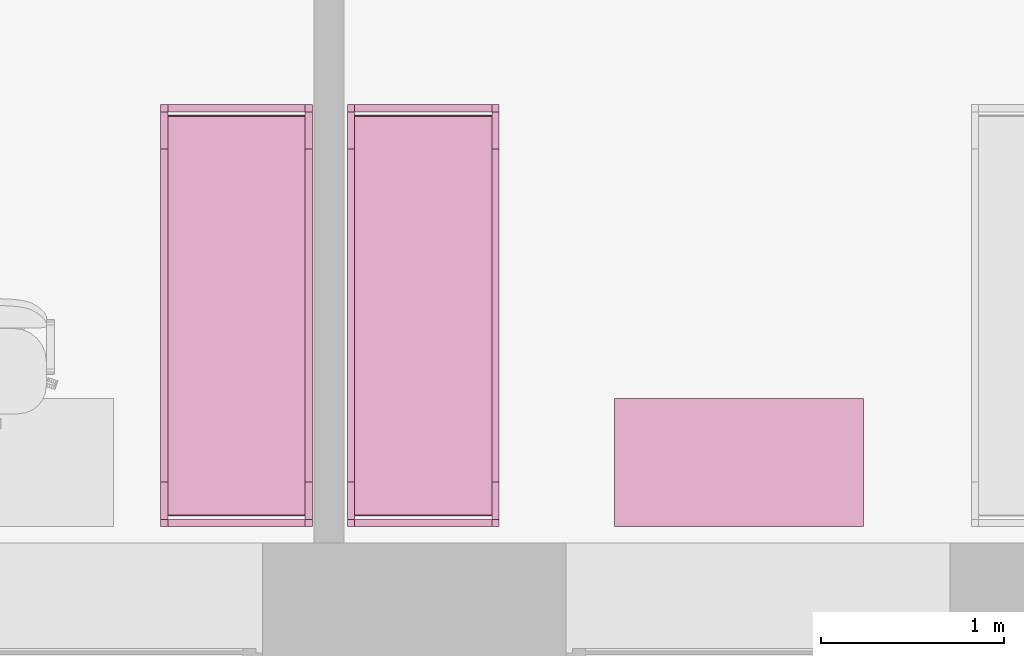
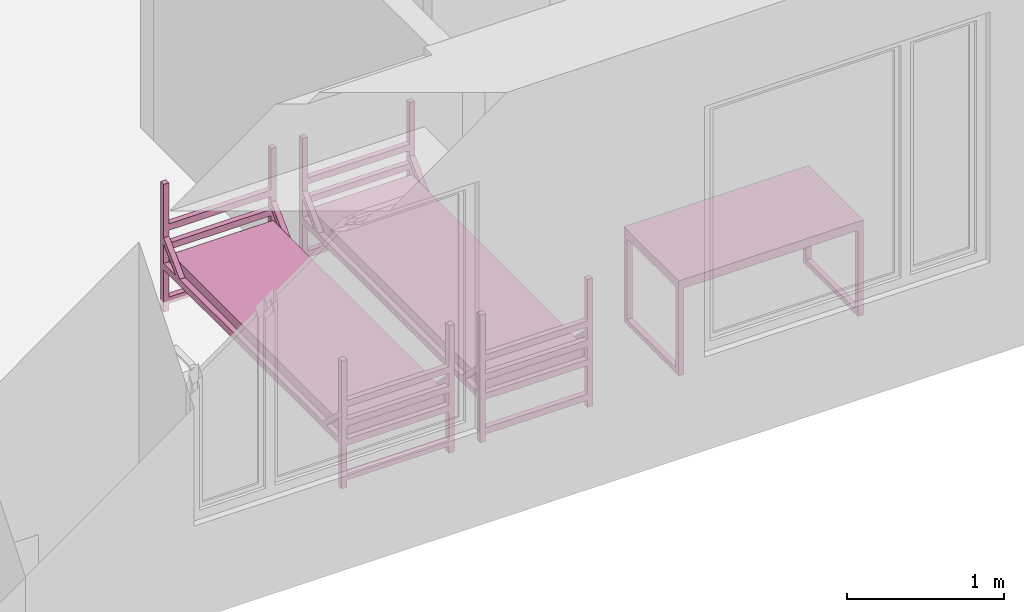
# One storey, part 27 of 46: 3 furnishings.
"""IFC2X3 building model written with IfcOpenShell, lengths in millimetres."""

from ifc_helpers import new_model, entity, si_unit, converted_unit, derived_unit, direction, frame, frame_2d, origin, origin_2d_with_axis, place, context, subcontext, project, spatial, polyline, circle_curve, parameter, trimmed, segment, composite_curve, rectangle, outline, extrude, faceted_brep, source, transform, mapped, material, material_list, type_object, type_shapes, element, save


model = new_model("IFC2X3")

# Units and contexts
model_context = context("Model", 3, precision=0.01, world=origin(), true_north=direction((6.12303176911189e-17, 1.0)))
body_context = subcontext(model_context, "Body", "Model", "MODEL_VIEW")
ifc_project = project(units=[si_unit("LENGTHUNIT", "METRE", prefix="MILLI"), si_unit("AREAUNIT", "SQUARE_METRE"), si_unit("VOLUMEUNIT", "CUBIC_METRE"), converted_unit("PLANEANGLEUNIT", "DEGREE", entity("IfcRatioMeasure", 0.0174532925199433), si_unit("PLANEANGLEUNIT", "RADIAN"), dimensions=[0, 0, 0, 0, 0, 0, 0]), si_unit("MASSUNIT", "GRAM", prefix="KILO"), derived_unit("MASSDENSITYUNIT", [(si_unit("MASSUNIT", "GRAM", prefix="KILO"), 1), (si_unit("LENGTHUNIT", "METRE"), -3)]), si_unit("TIMEUNIT", "SECOND"), si_unit("FREQUENCYUNIT", "HERTZ"), si_unit("THERMODYNAMICTEMPERATUREUNIT", "DEGREE_CELSIUS"), derived_unit("THERMALTRANSMITTANCEUNIT", [(si_unit("MASSUNIT", "GRAM", prefix="KILO"), 1), (si_unit("THERMODYNAMICTEMPERATUREUNIT", "KELVIN"), -1), (si_unit("TIMEUNIT", "SECOND"), -3)]), derived_unit("VOLUMETRICFLOWRATEUNIT", [(si_unit("LENGTHUNIT", "METRE"), 3), (si_unit("TIMEUNIT", "SECOND"), -1)]), si_unit("ELECTRICCURRENTUNIT", "AMPERE"), si_unit("ELECTRICVOLTAGEUNIT", "VOLT"), si_unit("POWERUNIT", "WATT"), si_unit("FORCEUNIT", "NEWTON", prefix="KILO"), si_unit("ILLUMINANCEUNIT", "LUX"), si_unit("LUMINOUSFLUXUNIT", "LUMEN"), si_unit("LUMINOUSINTENSITYUNIT", "CANDELA"), derived_unit("USERDEFINED", [(si_unit("MASSUNIT", "GRAM", prefix="KILO"), -1), (si_unit("LENGTHUNIT", "METRE"), -2), (si_unit("TIMEUNIT", "SECOND"), 3), (si_unit("LUMINOUSFLUXUNIT", "LUMEN"), 1)]), derived_unit("LINEARVELOCITYUNIT", [(si_unit("LENGTHUNIT", "METRE"), 1), (si_unit("TIMEUNIT", "SECOND"), -1)]), si_unit("PRESSUREUNIT", "PASCAL"), derived_unit("USERDEFINED", [(si_unit("LENGTHUNIT", "METRE"), -2), (si_unit("MASSUNIT", "GRAM", prefix="KILO"), 1), (si_unit("TIMEUNIT", "SECOND"), -2)]), derived_unit("LINEARFORCEUNIT", [(si_unit("MASSUNIT", "GRAM", prefix="KILO"), 1), (si_unit("LENGTHUNIT", "METRE"), 1), (si_unit("TIMEUNIT", "SECOND"), -2), (si_unit("LENGTHUNIT", "METRE"), -1)]), derived_unit("PLANARFORCEUNIT", [(si_unit("MASSUNIT", "GRAM", prefix="KILO"), 1), (si_unit("LENGTHUNIT", "METRE"), 1), (si_unit("TIMEUNIT", "SECOND"), -2), (si_unit("LENGTHUNIT", "METRE"), -2)])], contexts=[model_context])

# Site, building, storey, space
site_placement = place(None, origin())
site = spatial("IfcSite", under=ifc_project, at=site_placement, Name="Default", CompositionType="ELEMENT")
building_placement = place(site_placement, origin())
building = spatial("IfcBuilding", under=site, at=building_placement, Name="SMA ARH", CompositionType="ELEMENT")
storey_placement = place(building_placement, origin())
storey = spatial("IfcBuildingStorey", under=building, at=storey_placement, Name="1 Korrus", CompositionType="ELEMENT", Elevation=0.0)
space_1_placement = place(storey_placement, origin())
space_1 = spatial("IfcSpace", under=storey, at=space_1_placement, Name="1-15", CompositionType="ELEMENT", InteriorOrExteriorSpace="INTERNAL")

# Furnishing
ifc_material_1 = material(Name="Madrats")
furniture_type_1 = type_object("IfcFurnitureType", Name="Kasarmu voodi ühekordne 2308x830:Kasarmu voodi ühekordne 2308x830", material=ifc_material_1)
shared_shape_1 = source(origin(), body_context, "Body", "SweptSolid", [
    extrude(rectangle(XDim=39.9999999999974, YDim=750.000000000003, at=frame_2d((-1.35003119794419e-13, -2.8421709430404e-14), x_axis=(1.0, 0.0))), frame((1.68638457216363, -1226.7969571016, 55.0), z_axis=(0.0, 0.0, 1.0), x_axis=(0.0, -1.0, 0.0)), (0.0, 0.0, 1.0), 49.9999999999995),
    extrude(rectangle(XDim=39.9999999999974, YDim=750.000000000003, at=frame_2d((-1.35003119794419e-13, -2.8421709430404e-14), x_axis=(1.0, 0.0))), frame((1.68638457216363, -1226.7969571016, 325.0), z_axis=(0.0, 0.0, 1.0), x_axis=(0.0, -1.0, 0.0)), (0.0, 0.0, 1.0), 49.9999999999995),
    extrude(rectangle(XDim=39.9999999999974, YDim=750.000000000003, at=frame_2d((-1.35003119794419e-13, -2.8421709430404e-14), x_axis=(1.0, 0.0))), frame((1.68638457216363, -1226.7969571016, 475.0), z_axis=(0.0, 0.0, 1.0), x_axis=(0.0, -1.0, 0.0)), (0.0, 0.0, 1.0), 49.9999999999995),
    extrude(rectangle(XDim=39.9999999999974, YDim=750.000000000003, at=frame_2d((-1.35003119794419e-13, -2.8421709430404e-14), x_axis=(1.0, 0.0))), frame((1.68638457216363, -1226.7969571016, 625.0), z_axis=(0.0, 0.0, 1.0), x_axis=(0.0, -1.0, 0.0)), (0.0, 0.0, 1.0), 50.0000000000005),
    extrude(rectangle(XDim=39.9999999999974, YDim=750.000000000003, at=frame_2d((1.35003119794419e-13, -2.8421709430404e-14), x_axis=(1.0, 0.0))), frame((1.68638457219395, 1041.2030428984, 55.0), z_axis=(0.0, 0.0, 1.0), x_axis=(0.0, -1.0, 0.0)), (0.0, 0.0, 1.0), 50.0000000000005),
    extrude(rectangle(XDim=39.9999999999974, YDim=750.000000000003, at=frame_2d((1.35003119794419e-13, -2.8421709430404e-14), x_axis=(1.0, 0.0))), frame((1.68638457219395, 1041.2030428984, 325.0), z_axis=(0.0, 0.0, 1.0), x_axis=(0.0, -1.0, 0.0)), (0.0, 0.0, 1.0), 50.0000000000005),
    extrude(rectangle(XDim=39.9999999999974, YDim=750.000000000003, at=frame_2d((1.35003119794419e-13, -2.8421709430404e-14), x_axis=(1.0, 0.0))), frame((1.68638457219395, 1041.2030428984, 475.0), z_axis=(0.0, 0.0, 1.0), x_axis=(0.0, -1.0, 0.0)), (0.0, 0.0, 1.0), 50.0000000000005),
    extrude(rectangle(XDim=39.9999999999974, YDim=750.000000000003, at=frame_2d((1.35003119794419e-13, -2.8421709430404e-14), x_axis=(1.0, 0.0))), frame((1.68638457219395, 1041.2030428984, 625.0), z_axis=(0.0, 0.0, 1.0), x_axis=(0.0, -1.0, 0.0)), (0.0, 0.0, 1.0), 49.9999999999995),
    extrude(outline(composite_curve([segment(trimmed(circle_curve(frame_2d((1085.0, -40.0), x_axis=(1.0, 0.0)), 10.0), [parameter(270.0)], [parameter(0.0)], True, "PARAMETER"), True, "CONTINUOUS"), segment(polyline([(1095.0, -40.0), (1095.0, 40.0)]), True, "CONTINUOUS"), segment(trimmed(circle_curve(frame_2d((1085.0, 40.0), x_axis=(1.0, 0.0)), 10.0), [parameter(0.0)], [parameter(90.0000000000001)], True, "PARAMETER"), True, "CONTINUOUS"), segment(polyline([(1085.0, 50.0), (-1085.0, 50.0)]), True, "CONTINUOUS"), segment(trimmed(circle_curve(frame_2d((-1085.0, 40.0), x_axis=(1.0, 0.0)), 10.0), [parameter(90.0000000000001)], [parameter(180.0)], True, "PARAMETER"), True, "CONTINUOUS"), segment(polyline([(-1095.0, 40.0), (-1095.0, -40.0)]), True, "CONTINUOUS"), segment(trimmed(circle_curve(frame_2d((-1085.0, -40.0), x_axis=(1.0, 0.0)), 10.0), [parameter(180.0)], [parameter(270.0)], True, "PARAMETER"), True, "CONTINUOUS"), segment(polyline([(-1085.0, -50.0), (1085.0, -50.0)]), True, "CONTINUOUS")], self_intersect=False)), frame((-373.313615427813, -92.7969571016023, 405.0), z_axis=(1.0, 0.0, 0.0), x_axis=(0.0, -1.0, 0.0)), (0.0, 0.0, 1.0), 750.000000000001),
    extrude(outline(polyline([(-1114.0, -100.0), (1114.0, -100.0), (1114.0, -50.0), (961.59199141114, -50.0), (1114.0, 100.0), (1114.0, 150.0), (910.789321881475, -50.0), (-910.789321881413, -50.0), (-1114.0, 150.0), (-1114.0, 100.0), (-961.591991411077, -50.0), (-1114.0, -50.0), (-1114.0, -100.0)])), frame((-413.313615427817, -92.7969571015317, 430.0), z_axis=(1.0, 0.0, 0.0), x_axis=(0.0, 1.0, 0.0)), (0.0, 0.0, 1.0), 39.9999999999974),
    extrude(outline(polyline([(-1114.0, -100.0), (1114.0, -100.0), (1114.0, -50.0), (961.591991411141, -50.0), (1114.0, 100.0), (1114.0, 150.0), (910.789321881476, -50.0), (-910.789321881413, -50.0), (-1114.0, 150.0), (-1114.0, 100.0), (-961.591991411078, -50.0), (-1114.0, -50.0), (-1114.0, -100.0)])), frame((376.686384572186, -92.796957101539, 430.0), z_axis=(1.0, 0.0, 0.0), x_axis=(0.0, 1.0, 0.0)), (0.0, 0.0, 1.0), 39.9999999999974),
    extrude(rectangle(XDim=39.9999999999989, YDim=39.9999999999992, at=frame_2d((-6.75015598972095e-14, 0.0), x_axis=(1.0, 0.0))), frame((396.686384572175, -1226.79695710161, 0.0), z_axis=(0.0, 0.0, 1.0), x_axis=(0.0, 1.0, 0.0)), (0.0, 0.0, 1.0), 995.0),
    extrude(rectangle(XDim=39.9999999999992, YDim=39.9999999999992, at=frame_2d((-1.35003119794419e-13, 0.0), x_axis=(1.0, 0.0))), frame((396.686384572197, 1041.20304289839, 0.0), z_axis=(0.0, 0.0, 1.0), x_axis=(0.0, 1.0, 0.0)), (0.0, 0.0, 1.0), 995.0),
    extrude(rectangle(XDim=40.0000000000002, YDim=39.9999999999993, at=frame_2d((-1.35003119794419e-13, 0.0), x_axis=(1.0, 0.0))), frame((-393.313615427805, 1041.2030428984, 0.0), z_axis=(0.0, 0.0, 1.0), x_axis=(0.0, 1.0, 0.0)), (0.0, 0.0, 1.0), 995.0),
    extrude(rectangle(XDim=39.9999999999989, YDim=39.9999999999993, at=frame_2d((-6.75015598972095e-14, 0.0), x_axis=(1.0, 0.0))), frame((-393.313615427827, -1226.7969571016, 0.0), z_axis=(0.0, 0.0, 1.0), x_axis=(0.0, 1.0, 0.0)), (0.0, 0.0, 1.0), 995.0),
])
type_shapes(furniture_type_1, [shared_shape_1])
furnishing_1_placement = place(space_1_placement, frame((3200.0, 1151.20304289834, 0.0), z_axis=(0.0, 0.0, 1.0), x_axis=(-1.0, 0.0, 0.0)))
element("IfcFurnishingElement", 1, at=furnishing_1_placement, inside=space_1, type_object=furniture_type_1, material=ifc_material_1, Name="Kasarmu voodi ühekordne 2308x830:Kasarmu voodi ühekordne 2308x830", ObjectType="Kasarmu voodi ühekordne 2308x830:Kasarmu voodi ühekordne 2308x830", context=body_context, shape_type="MappedRepresentation", body=[
    mapped(shared_shape_1, transform((0.0, 0.0, 0.0), scale=1.0)),
])

# Space
space_2_placement = place(storey_placement, origin())
space_2 = spatial("IfcSpace", under=storey, at=space_2_placement, Name="1-14", CompositionType="ELEMENT", InteriorOrExteriorSpace="INTERNAL")

# Furnishings
ifc_material_2 = material(Name="<Unnamed>")
ifc_material_list = material_list([ifc_material_2, ifc_material_2])
furniture_type_2 = type_object("IfcFurnitureType", Name="kirjutuslaud 1360x700mm:kirjutuslaud 1360x700mm", material=ifc_material_list)
shared_shape_2 = source(origin(), body_context, "Body", "Brep", [
    faceted_brep([(680.0, -350.0, 720.0), (680.0, 350.0, 720.0), (680.0, 350.0, 750.0), (680.0, -350.0, 750.0), (-680.0, -350.0, 720.0), (-680.0, -350.0, 750.0), (-680.0, 350.0, 750.0), (-680.0, 350.0, 720.0)], [[[0, 1, 2, 3]], [[4, 5, 6, 7]], [[1, 0, 4, 7]], [[2, 1, 7, 6]], [[3, 2, 6, 5]], [[0, 3, 5, 4]]]),
    faceted_brep([(-640.0, -310.0, 680.0), (-640.0, 310.0, 680.0), (-640.0, 310.0, 720.0), (-640.0, -310.0, 720.0), (-680.0, -350.0, 720.0), (-680.0, 350.0, 720.0), (-680.0, 350.0, 10.0), (-680.0, -350.0, 10.0), (-680.0, 310.0, 680.0), (-680.0, -310.0, 680.0), (-680.0, -310.0, 50.0), (-680.0, 310.0, 50.0), (-640.0, -350.0, 10.0), (-640.0, -350.0, 680.0), (640.0, -350.0, 680.0), (640.0, -350.0, 10.0), (680.0, -350.0, 10.0), (680.0, -350.0, 720.0), (-640.0, 350.0, 10.0), (680.0, 350.0, 720.0), (680.0, 350.0, 10.0), (640.0, 350.0, 10.0), (640.0, 350.0, 680.0), (-640.0, 350.0, 680.0), (640.0, 310.0, 720.0), (640.0, -310.0, 720.0), (-640.0, 310.0, 50.0), (-640.0, -310.0, 50.0), (640.0, -310.0, 680.0), (640.0, 310.0, 680.0), (680.0, 310.0, 680.0), (680.0, 310.0, 50.0), (680.0, -310.0, 50.0), (680.0, -310.0, 680.0), (640.0, -310.0, 50.0), (640.0, 310.0, 50.0)], [[[0, 1, 2, 3]], [[4, 5, 6, 7], [8, 9, 10, 11]], [[4, 7, 12, 13, 14, 15, 16, 17]], [[18, 12, 7, 6]], [[6, 5, 19, 20, 21, 22, 23, 18]], [[19, 5, 4, 17], [2, 24, 25, 3]], [[26, 1, 8, 11]], [[27, 26, 11, 10]], [[0, 27, 10, 9]], [[1, 0, 9, 8]], [[14, 13, 0, 28]], [[24, 2, 1, 29]], [[3, 25, 28, 0]], [[17, 16, 20, 19], [30, 31, 32, 33]], [[21, 15, 14, 28, 34, 35, 29, 22]], [[20, 16, 15, 21]], [[31, 30, 29, 35]], [[32, 31, 35, 34]], [[33, 32, 34, 28]], [[30, 33, 28, 29]], [[29, 28, 25, 24]], [[29, 1, 23, 22]], [[12, 18, 23, 1, 26, 27, 0, 13]]]),
    faceted_brep([(-663.729456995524, -270.466136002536, 0.0), (-659.847171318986, -269.955023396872, 0.0), (-655.964885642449, -270.466136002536, 0.0), (-652.347171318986, -271.964642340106, 0.0), (-649.240569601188, -274.348421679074, 0.0), (-646.85679026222, -277.455023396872, 0.0), (-645.35828392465, -281.072737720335, 0.0), (-644.847171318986, -284.955023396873, 0.0), (-645.35828392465, -288.83730907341, 0.0), (-646.85679026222, -292.455023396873, 0.0), (-649.240569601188, -295.561625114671, 0.0), (-652.347171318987, -297.945404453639, 0.0), (-655.964885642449, -299.443910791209, 0.0), (-659.847171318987, -299.955023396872, 0.0), (-663.729456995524, -299.443910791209, 0.0), (-667.347171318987, -297.945404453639, 0.0), (-670.453773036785, -295.561625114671, 0.0), (-672.837552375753, -292.455023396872, 0.0), (-674.336058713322, -288.83730907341, 0.0), (-674.847171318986, -284.955023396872, 0.0), (-674.336058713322, -281.072737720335, 0.0), (-672.837552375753, -277.455023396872, 0.0), (-670.453773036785, -274.348421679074, 0.0), (-667.347171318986, -271.964642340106, 0.0), (-655.964885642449, -299.443910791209, 10.0), (-652.347171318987, -297.945404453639, 10.0), (-649.240569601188, -295.561625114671, 10.0), (-646.85679026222, -292.455023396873, 10.0), (-645.35828392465, -288.83730907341, 10.0), (-644.847171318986, -284.955023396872, 10.0), (-645.35828392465, -281.072737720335, 10.0), (-646.85679026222, -277.455023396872, 10.0), (-649.240569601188, -274.348421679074, 10.0), (-652.347171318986, -271.964642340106, 10.0), (-655.964885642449, -270.466136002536, 10.0), (-659.847171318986, -269.955023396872, 10.0), (-663.729456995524, -270.466136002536, 10.0), (-667.347171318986, -271.964642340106, 10.0), (-670.453773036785, -274.348421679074, 10.0), (-672.837552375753, -277.455023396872, 10.0), (-674.336058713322, -281.072737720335, 10.0), (-674.847171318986, -284.955023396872, 10.0), (-674.336058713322, -288.83730907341, 10.0), (-672.837552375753, -292.455023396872, 10.0), (-670.453773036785, -295.561625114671, 10.0), (-667.347171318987, -297.945404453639, 10.0), (-663.729456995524, -299.443910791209, 10.0), (-659.847171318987, -299.955023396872, 10.0)], [[[0, 1, 2, 3, 4, 5, 6, 7, 8, 9, 10, 11, 12, 13, 14, 15, 16, 17, 18, 19, 20, 21, 22, 23]], [[24, 25, 26, 27, 28, 29, 30, 31, 32, 33, 34, 35, 36, 37, 38, 39, 40, 41, 42, 43, 44, 45, 46, 47]], [[18, 42, 41, 19]], [[17, 43, 42, 18]], [[45, 44, 16, 15]], [[17, 16, 44, 43]], [[46, 45, 15, 14]], [[47, 46, 14, 13]], [[12, 24, 47, 13]], [[11, 25, 24, 12]], [[27, 26, 10, 9]], [[11, 10, 26, 25]], [[28, 27, 9, 8]], [[29, 28, 8, 7]], [[6, 30, 29, 7]], [[5, 31, 30, 6]], [[33, 32, 4, 3]], [[5, 4, 32, 31]], [[34, 33, 3, 2]], [[35, 34, 2, 1]], [[0, 36, 35, 1]], [[23, 37, 36, 0]], [[39, 38, 22, 21]], [[23, 22, 38, 37]], [[40, 39, 21, 20]], [[41, 40, 20, 19]]]),
    faceted_brep([(-655.964885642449, 270.466136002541, 10.0), (-652.347171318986, 271.964642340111, 10.0), (-649.240569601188, 274.348421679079, 10.0), (-646.85679026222, 277.455023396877, 10.0), (-645.35828392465, 281.07273772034, 10.0), (-644.847171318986, 284.955023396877, 10.0), (-645.35828392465, 288.837309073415, 10.0), (-646.85679026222, 292.455023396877, 10.0), (-649.240569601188, 295.561625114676, 10.0), (-652.347171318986, 297.945404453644, 10.0), (-655.964885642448, 299.443910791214, 10.0), (-659.847171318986, 299.955023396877, 10.0), (-663.729456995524, 299.443910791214, 10.0), (-667.347171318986, 297.945404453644, 10.0), (-670.453773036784, 295.561625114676, 10.0), (-672.837552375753, 292.455023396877, 10.0), (-674.336058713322, 288.837309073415, 10.0), (-674.847171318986, 284.955023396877, 10.0), (-674.336058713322, 281.07273772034, 10.0), (-672.837552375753, 277.455023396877, 10.0), (-670.453773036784, 274.348421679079, 10.0), (-667.347171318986, 271.964642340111, 10.0), (-663.729456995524, 270.466136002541, 10.0), (-659.847171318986, 269.955023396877, 10.0), (-655.964885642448, 299.443910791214, 0.0), (-652.347171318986, 297.945404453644, 0.0), (-649.240569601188, 295.561625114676, 0.0), (-646.85679026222, 292.455023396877, 0.0), (-645.35828392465, 288.837309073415, 0.0), (-644.847171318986, 284.955023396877, 0.0), (-645.35828392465, 281.07273772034, 0.0), (-646.85679026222, 277.455023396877, 0.0), (-649.240569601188, 274.348421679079, 0.0), (-652.347171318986, 271.964642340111, 0.0), (-655.964885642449, 270.466136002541, 0.0), (-659.847171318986, 269.955023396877, 0.0), (-663.729456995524, 270.466136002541, 0.0), (-667.347171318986, 271.964642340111, 0.0), (-670.453773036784, 274.348421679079, 0.0), (-672.837552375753, 277.455023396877, 0.0), (-674.336058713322, 281.07273772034, 0.0), (-674.847171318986, 284.955023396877, 0.0), (-674.336058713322, 288.837309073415, 0.0), (-672.837552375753, 292.455023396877, 0.0), (-670.453773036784, 295.561625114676, 0.0), (-667.347171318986, 297.945404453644, 0.0), (-663.729456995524, 299.443910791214, 0.0), (-659.847171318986, 299.955023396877, 0.0)], [[[0, 1, 2, 3, 4, 5, 6, 7, 8, 9, 10, 11, 12, 13, 14, 15, 16, 17, 18, 19, 20, 21, 22, 23]], [[24, 25, 26, 27, 28, 29, 30, 31, 32, 33, 34, 35, 36, 37, 38, 39, 40, 41, 42, 43, 44, 45, 46, 47]], [[40, 18, 17, 41]], [[39, 19, 18, 40]], [[21, 20, 38, 37]], [[39, 38, 20, 19]], [[22, 21, 37, 36]], [[23, 22, 36, 35]], [[34, 0, 23, 35]], [[33, 1, 0, 34]], [[3, 2, 32, 31]], [[33, 32, 2, 1]], [[4, 3, 31, 30]], [[5, 4, 30, 29]], [[28, 6, 5, 29]], [[27, 7, 6, 28]], [[9, 8, 26, 25]], [[27, 26, 8, 7]], [[10, 9, 25, 24]], [[11, 10, 24, 47]], [[46, 12, 11, 47]], [[45, 13, 12, 46]], [[15, 14, 44, 43]], [[45, 44, 14, 13]], [[16, 15, 43, 42]], [[17, 16, 42, 41]]]),
    faceted_brep([(656.270543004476, -270.466136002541, 0.0), (660.152828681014, -269.955023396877, 0.0), (664.035114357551, -270.466136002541, 0.0), (667.652828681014, -271.96464234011, 0.0), (670.759430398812, -274.348421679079, 0.0), (673.14320973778, -277.455023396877, 0.0), (674.64171607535, -281.072737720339, 0.0), (675.152828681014, -284.955023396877, 0.0), (674.64171607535, -288.837309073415, 0.0), (673.14320973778, -292.455023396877, 0.0), (670.759430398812, -295.561625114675, 0.0), (667.652828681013, -297.945404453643, 0.0), (664.035114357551, -299.443910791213, 0.0), (660.152828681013, -299.955023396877, 0.0), (656.270543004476, -299.443910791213, 0.0), (652.652828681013, -297.945404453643, 0.0), (649.546226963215, -295.561625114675, 0.0), (647.162447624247, -292.455023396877, 0.0), (645.663941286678, -288.837309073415, 0.0), (645.152828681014, -284.955023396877, 0.0), (645.663941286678, -281.072737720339, 0.0), (647.162447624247, -277.455023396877, 0.0), (649.546226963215, -274.348421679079, 0.0), (652.652828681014, -271.96464234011, 0.0), (664.035114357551, -299.443910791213, 10.0), (667.652828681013, -297.945404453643, 10.0), (670.759430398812, -295.561625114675, 10.0), (673.14320973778, -292.455023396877, 10.0), (674.64171607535, -288.837309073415, 10.0), (675.152828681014, -284.955023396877, 10.0), (674.64171607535, -281.072737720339, 10.0), (673.14320973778, -277.455023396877, 10.0), (670.759430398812, -274.348421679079, 10.0), (667.652828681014, -271.96464234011, 10.0), (664.035114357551, -270.466136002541, 10.0), (660.152828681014, -269.955023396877, 10.0), (656.270543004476, -270.466136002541, 10.0), (652.652828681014, -271.96464234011, 10.0), (649.546226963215, -274.348421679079, 10.0), (647.162447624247, -277.455023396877, 10.0), (645.663941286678, -281.072737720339, 10.0), (645.152828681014, -284.955023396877, 10.0), (645.663941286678, -288.837309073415, 10.0), (647.162447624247, -292.455023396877, 10.0), (649.546226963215, -295.561625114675, 10.0), (652.652828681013, -297.945404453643, 10.0), (656.270543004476, -299.443910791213, 10.0), (660.152828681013, -299.955023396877, 10.0)], [[[0, 1, 2, 3, 4, 5, 6, 7, 8, 9, 10, 11, 12, 13, 14, 15, 16, 17, 18, 19, 20, 21, 22, 23]], [[24, 25, 26, 27, 28, 29, 30, 31, 32, 33, 34, 35, 36, 37, 38, 39, 40, 41, 42, 43, 44, 45, 46, 47]], [[18, 42, 41, 19]], [[17, 43, 42, 18]], [[45, 44, 16, 15]], [[17, 16, 44, 43]], [[46, 45, 15, 14]], [[47, 46, 14, 13]], [[12, 24, 47, 13]], [[11, 25, 24, 12]], [[27, 26, 10, 9]], [[11, 10, 26, 25]], [[28, 27, 9, 8]], [[29, 28, 8, 7]], [[6, 30, 29, 7]], [[5, 31, 30, 6]], [[33, 32, 4, 3]], [[5, 4, 32, 31]], [[34, 33, 3, 2]], [[35, 34, 2, 1]], [[0, 36, 35, 1]], [[23, 37, 36, 0]], [[39, 38, 22, 21]], [[23, 22, 38, 37]], [[40, 39, 21, 20]], [[41, 40, 20, 19]]]),
    faceted_brep([(664.035114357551, 270.466136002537, 10.0), (667.652828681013, 271.964642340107, 10.0), (670.759430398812, 274.348421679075, 10.0), (673.14320973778, 277.455023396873, 10.0), (674.64171607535, 281.072737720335, 10.0), (675.152828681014, 284.955023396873, 10.0), (674.64171607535, 288.837309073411, 10.0), (673.14320973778, 292.455023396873, 10.0), (670.759430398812, 295.561625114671, 10.0), (667.652828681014, 297.94540445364, 10.0), (664.035114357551, 299.443910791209, 10.0), (660.152828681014, 299.955023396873, 10.0), (656.270543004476, 299.443910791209, 10.0), (652.652828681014, 297.94540445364, 10.0), (649.546226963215, 295.561625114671, 10.0), (647.162447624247, 292.455023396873, 10.0), (645.663941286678, 288.837309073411, 10.0), (645.152828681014, 284.955023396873, 10.0), (645.663941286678, 281.072737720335, 10.0), (647.162447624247, 277.455023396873, 10.0), (649.546226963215, 274.348421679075, 10.0), (652.652828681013, 271.964642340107, 10.0), (656.270543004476, 270.466136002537, 10.0), (660.152828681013, 269.955023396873, 10.0), (664.035114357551, 299.443910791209, 0.0), (667.652828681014, 297.94540445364, 0.0), (670.759430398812, 295.561625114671, 0.0), (673.14320973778, 292.455023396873, 0.0), (674.64171607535, 288.837309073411, 0.0), (675.152828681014, 284.955023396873, 0.0), (674.64171607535, 281.072737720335, 0.0), (673.14320973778, 277.455023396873, 0.0), (670.759430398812, 274.348421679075, 0.0), (667.652828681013, 271.964642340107, 0.0), (664.035114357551, 270.466136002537, 0.0), (660.152828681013, 269.955023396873, 0.0), (656.270543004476, 270.466136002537, 0.0), (652.652828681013, 271.964642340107, 0.0), (649.546226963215, 274.348421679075, 0.0), (647.162447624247, 277.455023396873, 0.0), (645.663941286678, 281.072737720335, 0.0), (645.152828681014, 284.955023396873, 0.0), (645.663941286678, 288.837309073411, 0.0), (647.162447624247, 292.455023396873, 0.0), (649.546226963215, 295.561625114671, 0.0), (652.652828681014, 297.94540445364, 0.0), (656.270543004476, 299.443910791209, 0.0), (660.152828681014, 299.955023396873, 0.0)], [[[0, 1, 2, 3, 4, 5, 6, 7, 8, 9, 10, 11, 12, 13, 14, 15, 16, 17, 18, 19, 20, 21, 22, 23]], [[24, 25, 26, 27, 28, 29, 30, 31, 32, 33, 34, 35, 36, 37, 38, 39, 40, 41, 42, 43, 44, 45, 46, 47]], [[40, 18, 17, 41]], [[39, 19, 18, 40]], [[21, 20, 38, 37]], [[39, 38, 20, 19]], [[22, 21, 37, 36]], [[23, 22, 36, 35]], [[34, 0, 23, 35]], [[33, 1, 0, 34]], [[3, 2, 32, 31]], [[33, 32, 2, 1]], [[4, 3, 31, 30]], [[5, 4, 30, 29]], [[28, 6, 5, 29]], [[27, 7, 6, 28]], [[9, 8, 26, 25]], [[27, 26, 8, 7]], [[10, 9, 25, 24]], [[11, 10, 24, 47]], [[46, 12, 11, 47]], [[45, 13, 12, 46]], [[15, 14, 44, 43]], [[45, 44, 14, 13]], [[16, 15, 43, 42]], [[17, 16, 42, 41]]]),
])
type_shapes(furniture_type_2, [shared_shape_2])
furnishing_2_placement = place(space_2_placement, frame((5945.50000000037, 440.0, 0.0)))
element("IfcFurnishingElement", 2, at=furnishing_2_placement, inside=space_2, type_object=furniture_type_2, Name="kirjutuslaud 1360x700mm:kirjutuslaud 1360x700mm", ObjectType="kirjutuslaud 1360x700mm:kirjutuslaud 1360x700mm", context=body_context, shape_type="MappedRepresentation", body=[
    mapped(shared_shape_2, transform((0.0, 0.0, 0.0), scale=1.0)),
])
furniture_type_3 = type_object("IfcFurnitureType", Name="Kasarmu voodi ühekordne 2308x830:Kasarmu voodi ühekordne 2308x830", material=ifc_material_1)
shared_shape_3 = source(origin(), body_context, "Body", "SweptSolid", [
    extrude(rectangle(XDim=750.000000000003, YDim=39.9999999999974, at=frame_2d((0.0, 1.35003119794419e-13), x_axis=(1.0, 0.0))), frame((1.68638457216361, 1226.7969571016, 55.0)), (0.0, 0.0, 1.0), 49.9999999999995),
    extrude(rectangle(XDim=750.000000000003, YDim=39.9999999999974, at=frame_2d((0.0, 1.35003119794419e-13), x_axis=(1.0, 0.0))), frame((1.68638457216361, 1226.7969571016, 325.0)), (0.0, 0.0, 1.0), 49.9999999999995),
    extrude(rectangle(XDim=750.000000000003, YDim=39.9999999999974, at=frame_2d((0.0, 1.35003119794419e-13), x_axis=(1.0, 0.0))), frame((1.68638457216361, 1226.7969571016, 475.0)), (0.0, 0.0, 1.0), 49.9999999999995),
    extrude(rectangle(XDim=750.000000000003, YDim=39.9999999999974, at=frame_2d((0.0, 1.35003119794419e-13), x_axis=(1.0, 0.0))), frame((1.68638457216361, 1226.7969571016, 625.0)), (0.0, 0.0, 1.0), 50.0000000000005),
    extrude(rectangle(XDim=750.000000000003, YDim=39.9999999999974, at=origin_2d_with_axis()), frame((1.68638457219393, -1041.2030428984, 55.0)), (0.0, 0.0, 1.0), 50.0000000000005),
    extrude(rectangle(XDim=750.000000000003, YDim=39.9999999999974, at=origin_2d_with_axis()), frame((1.68638457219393, -1041.2030428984, 325.0)), (0.0, 0.0, 1.0), 50.0000000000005),
    extrude(rectangle(XDim=750.000000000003, YDim=39.9999999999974, at=origin_2d_with_axis()), frame((1.68638457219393, -1041.2030428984, 475.0)), (0.0, 0.0, 1.0), 50.0000000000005),
    extrude(rectangle(XDim=750.000000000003, YDim=39.9999999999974, at=origin_2d_with_axis()), frame((1.68638457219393, -1041.2030428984, 625.0)), (0.0, 0.0, 1.0), 49.9999999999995),
    extrude(outline(composite_curve([segment(polyline([(-1085.0, -50.0), (1085.0, -50.0)]), True, "CONTINUOUS"), segment(trimmed(circle_curve(frame_2d((1085.0, -40.0), x_axis=(-1.0, 0.0)), 10.0), [parameter(90.0000000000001)], [parameter(180.0)], True, "PARAMETER"), True, "CONTINUOUS"), segment(polyline([(1095.0, -40.0), (1095.0, 40.0)]), True, "CONTINUOUS"), segment(trimmed(circle_curve(frame_2d((1085.0, 40.0), x_axis=(-1.0, 0.0)), 10.0), [parameter(180.0)], [parameter(270.0)], True, "PARAMETER"), True, "CONTINUOUS"), segment(polyline([(1085.0, 50.0), (-1085.0, 50.0)]), True, "CONTINUOUS"), segment(trimmed(circle_curve(frame_2d((-1085.0, 40.0), x_axis=(-1.0, 0.0)), 10.0), [parameter(270.0)], [parameter(0.0)], True, "PARAMETER"), True, "CONTINUOUS"), segment(polyline([(-1095.0, 40.0), (-1095.0, -40.0)]), True, "CONTINUOUS"), segment(trimmed(circle_curve(frame_2d((-1085.0, -40.0), x_axis=(-1.0, 0.0)), 10.0), [parameter(0.0)], [parameter(90.0000000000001)], True, "PARAMETER"), True, "CONTINUOUS")], self_intersect=False)), frame((-373.313615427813, 92.7969571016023, 405.0), z_axis=(1.0, 0.0, 0.0), x_axis=(0.0, -1.0, 0.0)), (0.0, 0.0, 1.0), 750.000000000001),
    extrude(outline(polyline([(-100.0, -1114.0), (-50.0, -1114.0), (-50.0, -961.591991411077), (100.0, -1114.0), (150.0, -1114.0), (-50.0, -910.789321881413), (-50.0, 910.789321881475), (150.0, 1114.0), (100.0, 1114.0), (-50.0, 961.591991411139), (-50.0, 1114.0), (-100.0, 1114.0), (-100.0, -1114.0)])), frame((-413.313615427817, 92.7969571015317, 430.0), z_axis=(1.0, 0.0, 0.0), x_axis=(0.0, 0.0, 1.0)), (0.0, 0.0, 1.0), 39.9999999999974),
    extrude(outline(polyline([(-100.0, -1114.0), (-50.0, -1114.0), (-50.0, -961.591991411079), (100.0, -1114.0), (150.0, -1114.0), (-50.0, -910.789321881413), (-50.0, 910.789321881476), (150.0, 1114.0), (100.0, 1114.0), (-50.0, 961.591991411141), (-50.0, 1114.0), (-100.0, 1114.0), (-100.0, -1114.0)])), frame((376.686384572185, 92.796957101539, 430.0), z_axis=(1.0, 0.0, 0.0), x_axis=(0.0, 0.0, 1.0)), (0.0, 0.0, 1.0), 39.9999999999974),
    extrude(rectangle(XDim=39.9999999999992, YDim=39.9999999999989, at=frame_2d((0.0, -6.75015598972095e-14), x_axis=(1.0, 0.0))), frame((396.686384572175, 1226.79695710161, 0.0), z_axis=(0.0, 0.0, 1.0), x_axis=(-1.0, 0.0, 0.0)), (0.0, 0.0, 1.0), 995.0),
    extrude(rectangle(XDim=39.9999999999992, YDim=39.9999999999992, at=origin_2d_with_axis()), frame((396.686384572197, -1041.20304289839, 0.0), z_axis=(0.0, 0.0, 1.0), x_axis=(-1.0, 0.0, 0.0)), (0.0, 0.0, 1.0), 995.0),
    extrude(rectangle(XDim=39.9999999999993, YDim=40.0000000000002, at=origin_2d_with_axis()), frame((-393.313615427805, -1041.2030428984, 0.0), z_axis=(0.0, 0.0, 1.0), x_axis=(-1.0, 0.0, 0.0)), (0.0, 0.0, 1.0), 995.0),
    extrude(rectangle(XDim=39.9999999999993, YDim=39.9999999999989, at=frame_2d((0.0, -6.75015598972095e-14), x_axis=(1.0, 0.0))), frame((-393.313615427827, 1226.7969571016, 0.0), z_axis=(0.0, 0.0, 1.0), x_axis=(-1.0, 0.0, 0.0)), (0.0, 0.0, 1.0), 995.0),
])
type_shapes(furniture_type_3, [shared_shape_3])
furnishing_3_placement = place(space_2_placement, frame((4220.68638457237, 1336.79695710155, 0.0), z_axis=(0.0, 0.0, 1.0), x_axis=(-1.0, 0.0, 0.0)))
element("IfcFurnishingElement", 3, at=furnishing_3_placement, inside=space_2, type_object=furniture_type_3, material=ifc_material_1, Name="Kasarmu voodi ühekordne 2308x830:Kasarmu voodi ühekordne 2308x830", ObjectType="Kasarmu voodi ühekordne 2308x830:Kasarmu voodi ühekordne 2308x830", context=body_context, shape_type="MappedRepresentation", body=[
    mapped(shared_shape_3, transform((0.0, 0.0, 0.0), scale=1.0)),
])

save(model, "model.ifc")
